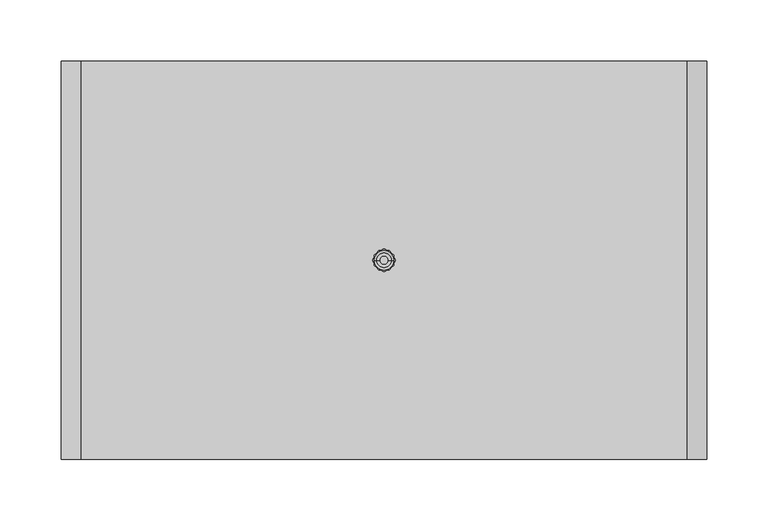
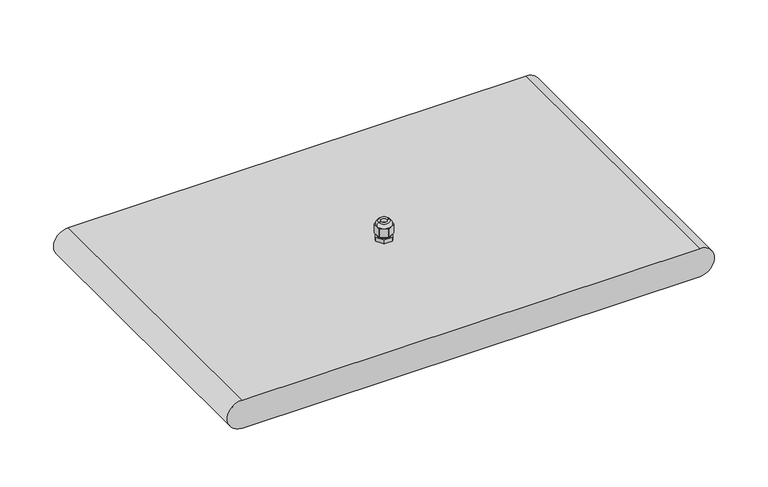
"""IFC4 building model written with IfcOpenShell, lengths in millimetres: light fixture geometry, GENILED_Светильник светодиодный_Element Низковольтный : Element 0,5x3 150Вт 12В Линза Ш2."""

from ifc_helpers import new_model, si_unit, point, frame, origin, origin_with_axes, place, context, project, spatial, polyline, circle_curve, ellipse_curve, trimmed, outline, extrude, source, transform, mapped, element, save
from ifc_brep_helpers import plane_surface, cylinder_surface, revolved_surface, advanced_brep


def light_fixture_b73f29e1(model_context):
    return source(origin(), model_context, "Body", "SolidModel", [
        advanced_brep(
        [(5.85, 0.0, 52.0120269), (-5.85, 0.0, 52.0120269), (-3.5, 0.0, 52.0120269), (3.5, 0.0, 52.0120269), (8.0, 0.0, 48.0120269), (4.0, 6.9282032, 48.0120269), (-4.0, 6.9282032, 48.0120269), (-8.0, 0.0, 48.0120269), (-4.0, -6.9282032, 48.0120269), (4.0, -6.9282032, 48.0120269), (-3.5, 0.0, 48.0120269), (3.5, 0.0, 48.0120269), (8.0, 4.1231056, 48.0120269), (7.5707142, 4.8666504, 48.0120269), (0.4292858, 8.989756, 48.0120269), (-0.4292858, 8.989756, 48.0120269), (-7.5707142, 4.8666504, 48.0120269), (-8.0, 4.1231056, 48.0120269), (-8.0, -4.1231056, 48.0120269), (-7.5707142, -4.8666504, 48.0120269), (-0.4292858, -8.989756, 48.0120269), (0.4292858, -8.989756, 48.0120269), (7.5707142, -4.8666504, 48.0120269), (8.0, -4.1231056, 48.0120269), (0.4292858, 8.989756, 38.6), (7.5707142, 4.8666504, 38.6), (8.0, 4.1231056, 38.6), (8.0, -4.1231056, 38.6), (7.5707142, -4.8666504, 38.6), (0.4292858, -8.989756, 38.6), (-0.4292858, -8.989756, 38.6), (-7.5707142, -4.8666504, 38.6), (-8.0, -4.1231056, 38.6), (-8.0, 4.1231056, 38.6), (-7.5707142, 4.8666504, 38.6), (-0.4292858, 8.989756, 38.6), (-7.25, 0.0, 38.6), (7.25, 0.0, 38.6), (-7.25, 0.0, 36.6), (7.25, 0.0, 36.6), (-8.989756, -0.4292858, 36.6), (-4.8666504, -7.5707142, 36.6), (-4.1231056, -8.0, 36.6), (4.1231056, -8.0, 36.6), (4.8666504, -7.5707142, 36.6), (8.989756, -0.4292858, 36.6), (9.0, 0.0, 36.6), (8.989756, 0.4292858, 36.6), (4.8666504, 7.5707142, 36.6), (4.1231056, 8.0, 36.6), (-4.1231056, 8.0, 36.6), (-4.8666504, 7.5707142, 36.6), (-8.989756, 0.4292858, 36.6), (-9.0, 0.0, 36.6), (-8.989756, 0.4292858, 32.0), (-4.8666504, 7.5707142, 32.0), (-4.1231056, 8.0, 32.0), (4.1231056, 8.0, 32.0), (4.8666504, 7.5707142, 32.0), (8.989756, 0.4292858, 32.0), (9.0, 0.0, 32.0), (8.989756, -0.4292858, 32.0), (4.8666504, -7.5707142, 32.0), (4.1231056, -8.0, 32.0), (-4.1231056, -8.0, 32.0), (-4.8666504, -7.5707142, 32.0), (-8.989756, -0.4292858, 32.0), (-9.0, 0.0, 32.0)],
        [
            (0, 1, circle_curve(frame((0.0, 0.0, 52.0120269), z_axis=(0.0, 0.0, 1.0), x_axis=(-1.0, 0.0, 0.0)), 5.85)),
            (1, 2),
            (2, 3, circle_curve(frame((0.0, 0.0, 52.0120269), z_axis=(0.0, 0.0, -1.0), x_axis=(-1.0, 0.0, 0.0)), 3.5)),
            (3, 0),
            (1, 0, circle_curve(frame((0.0, 0.0, 52.0120269), z_axis=(0.0, 0.0, 1.0), x_axis=(-1.0, 0.0, 0.0)), 5.85)),
            (3, 2, circle_curve(frame((0.0, 0.0, 52.0120269), z_axis=(0.0, 0.0, -1.0), x_axis=(-1.0, 0.0, 0.0)), 3.5)),
            (0, 4, circle_curve(frame((2.4876149, 0.0, 47.6269324), z_axis=(0.0, 1.0, 0.0), x_axis=(-1.0, 0.0, 0.0)), 5.5258201)),
            (4, 5, circle_curve(frame((0.0, 0.0, 48.0120269), z_axis=(0.0, 0.0, 1.0), x_axis=(-1.0, 0.0, 0.0)), 8.0)),
            (5, 6, circle_curve(frame((0.0, 0.0, 48.0120269), z_axis=(0.0, 0.0, 1.0), x_axis=(-1.0, 0.0, 0.0)), 8.0)),
            (6, 7, circle_curve(frame((0.0, 0.0, 48.0120269), z_axis=(0.0, 0.0, 1.0), x_axis=(-1.0, 0.0, 0.0)), 8.0)),
            (7, 1, circle_curve(frame((-2.4876149, 0.0, 47.6269324), z_axis=(0.0, 1.0, 0.0), x_axis=(1.0, 0.0, 0.0)), 5.5258201)),
            (7, 8, circle_curve(frame((0.0, 0.0, 48.0120269), z_axis=(0.0, 0.0, 1.0), x_axis=(-1.0, 0.0, 0.0)), 8.0)),
            (8, 9, circle_curve(frame((0.0, 0.0, 48.0120269), z_axis=(0.0, 0.0, 1.0), x_axis=(-1.0, 0.0, 0.0)), 8.0)),
            (9, 4, circle_curve(frame((0.0, 0.0, 48.0120269), z_axis=(0.0, 0.0, 1.0), x_axis=(-1.0, 0.0, 0.0)), 8.0)),
            (2, 10),
            (10, 11, circle_curve(frame((0.0, 0.0, 48.0120269), z_axis=(0.0, 0.0, -1.0), x_axis=(-1.0, 0.0, 0.0)), 3.5)),
            (11, 3),
            (11, 10, circle_curve(frame((0.0, 0.0, 48.0120269), z_axis=(0.0, 0.0, -1.0), x_axis=(-1.0, 0.0, 0.0)), 3.5)),
            (4, 12),
            (12, 13, circle_curve(frame((0.0, 0.0, 48.0120269), z_axis=(0.0, 0.0, 1.0), x_axis=(1.0, 0.0, 0.0)), 9.0)),
            (13, 5),
            (5, 14),
            (14, 15, circle_curve(frame((0.0, 0.0, 48.0120269), z_axis=(0.0, 0.0, 1.0), x_axis=(1.0, 0.0, 0.0)), 9.0)),
            (15, 6),
            (6, 16),
            (16, 17, circle_curve(frame((0.0, 0.0, 48.0120269), z_axis=(0.0, 0.0, 1.0), x_axis=(1.0, 0.0, 0.0)), 9.0)),
            (17, 7),
            (7, 18),
            (18, 19, circle_curve(frame((0.0, 0.0, 48.0120269), z_axis=(0.0, 0.0, 1.0), x_axis=(1.0, 0.0, 0.0)), 9.0)),
            (19, 8),
            (8, 20),
            (20, 21, circle_curve(frame((0.0, 0.0, 48.0120269), z_axis=(0.0, 0.0, 1.0), x_axis=(1.0, 0.0, 0.0)), 9.0)),
            (21, 9),
            (9, 22),
            (22, 23, circle_curve(frame((0.0, 0.0, 48.0120269), z_axis=(0.0, 0.0, 1.0), x_axis=(1.0, 0.0, 0.0)), 9.0)),
            (23, 4),
            (24, 25),
            (25, 26, circle_curve(frame((0.0, 0.0, 38.6), z_axis=(0.0, 0.0, -1.0), x_axis=(1.0, 0.0, 0.0)), 9.0)),
            (26, 27),
            (27, 28, circle_curve(frame((0.0, 0.0, 38.6), z_axis=(0.0, 0.0, -1.0), x_axis=(1.0, 0.0, 0.0)), 9.0)),
            (28, 29),
            (29, 30, circle_curve(frame((0.0, 0.0, 38.6), z_axis=(0.0, 0.0, -1.0), x_axis=(1.0, 0.0, 0.0)), 9.0)),
            (30, 31),
            (31, 32, circle_curve(frame((0.0, 0.0, 38.6), z_axis=(0.0, 0.0, -1.0), x_axis=(1.0, 0.0, 0.0)), 9.0)),
            (32, 33),
            (33, 34, circle_curve(frame((0.0, 0.0, 38.6), z_axis=(0.0, 0.0, -1.0), x_axis=(1.0, 0.0, 0.0)), 9.0)),
            (34, 35),
            (35, 24, circle_curve(frame((0.0, 0.0, 38.6), z_axis=(0.0, 0.0, -1.0), x_axis=(1.0, 0.0, 0.0)), 9.0)),
            (36, 37, circle_curve(frame((0.0, 0.0, 38.6), z_axis=(0.0, 0.0, 1.0), x_axis=(1.0, 0.0, 0.0)), 7.25)),
            (37, 36, circle_curve(frame((0.0, 0.0, 38.6), z_axis=(0.0, 0.0, 1.0), x_axis=(1.0, 0.0, 0.0)), 7.25)),
            (15, 35),
            (34, 16),
            (17, 33),
            (32, 18),
            (19, 31),
            (30, 20),
            (21, 29),
            (28, 22),
            (23, 27),
            (26, 12),
            (13, 25),
            (24, 14),
            (36, 38),
            (38, 39, circle_curve(frame((0.0, 0.0, 36.6), z_axis=(0.0, 0.0, 1.0), x_axis=(1.0, 0.0, 0.0)), 7.25)),
            (39, 37),
            (39, 38, circle_curve(frame((0.0, 0.0, 36.6), z_axis=(0.0, 0.0, 1.0), x_axis=(1.0, 0.0, 0.0)), 7.25)),
            (40, 41),
            (41, 42, circle_curve(frame((0.0, 0.0, 36.6), z_axis=(0.0, 0.0, 1.0), x_axis=(1.0, 0.0, 0.0)), 9.0)),
            (42, 43),
            (43, 44, circle_curve(frame((0.0, 0.0, 36.6), z_axis=(0.0, 0.0, 1.0), x_axis=(1.0, 0.0, 0.0)), 9.0)),
            (44, 45),
            (45, 46, circle_curve(frame((0.0, 0.0, 36.6), z_axis=(0.0, 0.0, 1.0), x_axis=(1.0, 0.0, 0.0)), 9.0)),
            (46, 47, circle_curve(frame((0.0, 0.0, 36.6), z_axis=(0.0, 0.0, 1.0), x_axis=(1.0, 0.0, 0.0)), 9.0)),
            (47, 48),
            (48, 49, circle_curve(frame((0.0, 0.0, 36.6), z_axis=(0.0, 0.0, 1.0), x_axis=(1.0, 0.0, 0.0)), 9.0)),
            (49, 50),
            (50, 51, circle_curve(frame((0.0, 0.0, 36.6), z_axis=(0.0, 0.0, 1.0), x_axis=(1.0, 0.0, 0.0)), 9.0)),
            (51, 52),
            (52, 53, circle_curve(frame((0.0, 0.0, 36.6), z_axis=(0.0, 0.0, 1.0), x_axis=(1.0, 0.0, 0.0)), 9.0)),
            (53, 40, circle_curve(frame((0.0, 0.0, 36.6), z_axis=(0.0, 0.0, 1.0), x_axis=(1.0, 0.0, 0.0)), 9.0)),
            (54, 55),
            (55, 56, circle_curve(frame((0.0, 0.0, 32.0), z_axis=(0.0, 0.0, -1.0), x_axis=(1.0, 0.0, 0.0)), 9.0)),
            (56, 57),
            (57, 58, circle_curve(frame((0.0, 0.0, 32.0), z_axis=(0.0, 0.0, -1.0), x_axis=(1.0, 0.0, 0.0)), 9.0)),
            (58, 59),
            (59, 60, circle_curve(frame((0.0, 0.0, 32.0), z_axis=(0.0, 0.0, -1.0), x_axis=(1.0, 0.0, 0.0)), 9.0)),
            (60, 61, circle_curve(frame((0.0, 0.0, 32.0), z_axis=(0.0, 0.0, -1.0), x_axis=(1.0, 0.0, 0.0)), 9.0)),
            (61, 62),
            (62, 63, circle_curve(frame((0.0, 0.0, 32.0), z_axis=(0.0, 0.0, -1.0), x_axis=(1.0, 0.0, 0.0)), 9.0)),
            (63, 64),
            (64, 65, circle_curve(frame((0.0, 0.0, 32.0), z_axis=(0.0, 0.0, -1.0), x_axis=(1.0, 0.0, 0.0)), 9.0)),
            (65, 66),
            (66, 67, circle_curve(frame((0.0, 0.0, 32.0), z_axis=(0.0, 0.0, -1.0), x_axis=(1.0, 0.0, 0.0)), 9.0)),
            (67, 54, circle_curve(frame((0.0, 0.0, 32.0), z_axis=(0.0, 0.0, -1.0), x_axis=(1.0, 0.0, 0.0)), 9.0)),
            (40, 66),
            (65, 41),
            (42, 64),
            (63, 43),
            (44, 62),
            (61, 45),
            (47, 59),
            (58, 48),
            (49, 57),
            (56, 50),
            (51, 55),
            (54, 52),
            (67, 53),
            (46, 60),
        ],
        [
            plane_surface(frame((0.0, 0.0, 52.0120269), z_axis=(0.0, 0.0, 1.0), x_axis=(-1.0, 0.0, 0.0))),
            revolved_surface(trimmed(ellipse_curve(frame((-2.4876149, 0.0, 47.6269324), z_axis=(0.0, -1.0, 0.0), x_axis=(1.0, 0.0, 0.0)), 5.5258201, 5.5258201), [point((-5.85, 0.0, 52.0120269))], [point((-8.0, 0.0, 48.0120269))], True, "CARTESIAN"), (0.0, 0.0, 48.0120269), (0.0, 0.0, -1.0)),
            revolved_surface(polyline([(-3.5, 0.0, 48.0120269), (-3.5, 0.0, 52.0120269)]), (0.0, 0.0, 48.0120269), (0.0, 0.0, -1.0)),
            plane_surface(frame((0.0, 9.2376043, 48.0120269), z_axis=(0.0, 0.0, 1.0000000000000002), x_axis=(-0.8660254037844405, -0.49999999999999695, 0.0))),
            plane_surface(frame((0.0, 9.2376043, 38.6), z_axis=(0.0, 0.0, -1.0000000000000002), x_axis=(0.8660254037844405, 0.49999999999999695, 0.0))),
            plane_surface(frame((0.0, 9.2376043, 48.0120269), z_axis=(-0.49999999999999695, 0.8660254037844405, 0.0), x_axis=(0.0, 0.0, -1.0))),
            plane_surface(frame((-8.0, 4.6188022, 48.0120269), z_axis=(-1.0, 0.0, 0.0), x_axis=(0.0, 0.0, -1.0))),
            plane_surface(frame((-8.0, -4.6188022, 48.0120269), z_axis=(-0.5000000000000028, -0.8660254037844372, 0.0), x_axis=(0.0, 0.0, -1.0))),
            plane_surface(frame((0.0, -9.2376043, 48.0120269), z_axis=(0.49999999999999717, -0.8660254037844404, 0.0), x_axis=(0.0, 0.0, -1.0))),
            plane_surface(frame((8.0, -4.6188022, 48.0120269), z_axis=(1.0, 0.0, 0.0), x_axis=(0.0, 0.0, -1.0))),
            plane_surface(frame((8.0, 4.6188022, 48.0120269), z_axis=(0.5000000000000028, 0.8660254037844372, 0.0), x_axis=(0.0, 0.0, -1.0))),
            cylinder_surface(frame((0.0, 0.0, 36.6), z_axis=(0.0, 0.0, 1.0), x_axis=(1.0, 0.0, 0.0)), 7.25),
            plane_surface(frame((-9.2376043, 0.0, 36.6), z_axis=(0.0, 0.0, 1.0), x_axis=(0.5000000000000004, -0.8660254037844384, 0.0))),
            plane_surface(frame((-9.2376043, 0.0, 32.0), z_axis=(0.0, 0.0, -1.0), x_axis=(-0.5000000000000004, 0.8660254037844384, 0.0))),
            plane_surface(frame((-9.2376043, 0.0, 36.6), z_axis=(-0.8660254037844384, -0.5000000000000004, 0.0), x_axis=(0.0, 0.0, -1.0))),
            plane_surface(frame((-4.6188022, -8.0, 36.6), z_axis=(0.0, -1.0, 0.0), x_axis=(0.0, 0.0, -1.0))),
            plane_surface(frame((4.6188022, -8.0, 36.6), z_axis=(0.866025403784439, -0.49999999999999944, 0.0), x_axis=(0.0, 0.0, -1.0))),
            plane_surface(frame((9.2376043, 0.0, 36.6), z_axis=(0.8660254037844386, 0.5000000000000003, 0.0), x_axis=(0.0, 0.0, -1.0))),
            plane_surface(frame((4.6188022, 8.0, 36.6), z_axis=(0.0, 1.0, 0.0), x_axis=(0.0, 0.0, -1.0))),
            plane_surface(frame((-4.6188022, 8.0, 36.6), z_axis=(-0.8660254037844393, 0.49999999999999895, 0.0), x_axis=(0.0, 0.0, -1.0))),
            cylinder_surface(frame((0.0, 0.0, 32.0), z_axis=(0.0, 0.0, -1.0), x_axis=(1.0, 0.0, 0.0)), 9.0),
        ],
        [
            (0, [[1, 2, 3, 4]]),
            (0, [[-2, 5, -4, 6]]),
            (1, [[-1, 7, 8, 9, 10, 11]]),
            (1, [[-5, -11, 12, 13, 14, -7]]),
            (2, [[-3, 15, 16, 17]]),
            (2, [[-6, -17, 18, -15]]),
            (3, [[-8, 19, 20, 21]]),
            (3, [[-9, 22, 23, 24]]),
            (3, [[-10, 25, 26, 27]]),
            (3, [[-12, 28, 29, 30]]),
            (3, [[-13, 31, 32, 33]]),
            (3, [[-14, 34, 35, 36]]),
            (3, [[-16, -18]]),
            (4, [[37, 38, 39, 40, 41, 42, 43, 44, 45, 46, 47, 48], [49, 50]]),
            (5, [[-25, -24, 51, -47, 52]]),
            (6, [[-27, 53, -45, 54, -28]]),
            (7, [[-30, 55, -43, 56, -31]]),
            (8, [[-34, -33, 57, -41, 58]]),
            (9, [[-36, 59, -39, 60, -19]]),
            (10, [[-21, 61, -37, 62, -22]]),
            (11, [[63, 64, 65, -49]]),
            (11, [[-63, -50, -65, 66]]),
            (12, [[67, 68, 69, 70, 71, 72, 73, 74, 75, 76, 77, 78, 79, 80], [-64, -66]]),
            (13, [[81, 82, 83, 84, 85, 86, 87, 88, 89, 90, 91, 92, 93, 94]]),
            (14, [[-67, 95, -92, 96]]),
            (15, [[-69, 97, -90, 98]]),
            (16, [[-71, 99, -88, 100]]),
            (17, [[-74, 101, -85, 102]]),
            (18, [[-76, 103, -83, 104]]),
            (19, [[-78, 105, -81, 106]]),
            (20, [[-20, -60, -38, -61]]),
            (20, [[-23, -62, -48, -51]]),
            (20, [[-26, -52, -46, -53]]),
            (20, [[-75, -102, -84, -103]]),
            (20, [[-77, -104, -82, -105]]),
            (20, [[107, -79, -106, -94]]),
            (20, [[108, -86, -101, -73]]),
            (20, [[-29, -54, -44, -55]]),
            (20, [[-32, -56, -42, -57]]),
            (20, [[-35, -58, -40, -59]]),
            (20, [[-68, -96, -91, -97]]),
            (20, [[-70, -98, -89, -99]]),
            (20, [[-107, -93, -95, -80]]),
            (20, [[-108, -72, -100, -87]]),
        ],
    ),
        advanced_brep(
        [(246.5, -162.0, 32.0), (-246.5, -162.0, 32.0), (-246.5, -162.0, 0.0), (246.5, -162.0, 0.0), (246.5, 162.0, 32.0), (246.5, 162.0, 0.0), (-246.5, 162.0, 0.0), (-246.5, 162.0, 32.0), (-246.5, 152.0, 0.0), (-246.5, -152.0, 0.0), (246.5, -152.0, 0.0), (246.5, 152.0, 0.0), (246.5, 152.0, 2.0), (246.5, -152.0, 2.0), (-246.5, -152.0, 2.0), (-246.5, 152.0, 2.0)],
        [
            (0, 1),
            (1, 2, circle_curve(frame((-246.5, -162.0, 16.0), z_axis=(0.0, -1.0, 0.0), x_axis=(1.0, 0.0, 0.0)), 16.0)),
            (2, 3),
            (3, 0, circle_curve(frame((246.5, -162.0, 16.0), z_axis=(0.0, -1.0, 0.0), x_axis=(1.0, 0.0, 0.0)), 16.0)),
            (4, 5, circle_curve(frame((246.5, 162.0, 16.0), z_axis=(0.0, 1.0, 0.0), x_axis=(1.0, 0.0, 0.0)), 16.0)),
            (5, 6),
            (6, 7, circle_curve(frame((-246.5, 162.0, 16.0), z_axis=(0.0, 1.0, 0.0), x_axis=(1.0, 0.0, 0.0)), 16.0)),
            (7, 4),
            (0, 4),
            (7, 1),
            (6, 8),
            (8, 9),
            (9, 2),
            (9, 10),
            (10, 3),
            (5, 11),
            (11, 8),
            (10, 11),
            (12, 13),
            (13, 14),
            (14, 15),
            (15, 12),
            (15, 8),
            (11, 12),
            (14, 9),
            (13, 10),
        ],
        [
            plane_surface(frame((-246.5, -162.0, 32.0), z_axis=(0.0, -1.0, 0.0), x_axis=(-1.0, 0.0, 0.0))),
            plane_surface(frame((-246.5, 162.0, 32.0), z_axis=(0.0, 1.0, 0.0), x_axis=(1.0, 0.0, 0.0))),
            plane_surface(frame((246.5, -162.0, 32.0), z_axis=(0.0, 0.0, 1.0), x_axis=(0.0, 1.0, 0.0))),
            cylinder_surface(frame((-246.5, 162.0, 16.0), z_axis=(0.0, -1.0, 0.0), x_axis=(1.0, 0.0, 0.0)), 16.0),
            plane_surface(frame((-246.5, -162.0, 0.0), z_axis=(0.0, 0.0, -1.0), x_axis=(0.0, 1.0, 0.0))),
            cylinder_surface(frame((246.5, 162.0, 16.0), z_axis=(0.0, -1.0, 0.0), x_axis=(1.0, 0.0, 0.0)), 16.0),
            plane_surface(frame((-246.5, 152.0, 2.0), z_axis=(0.0, 0.0, -1.0), x_axis=(-1.0, 0.0, 0.0))),
            plane_surface(frame((246.5, 152.0, 2.0), z_axis=(0.0, -1.0, 0.0), x_axis=(0.0, 0.0, -1.0))),
            plane_surface(frame((-246.5, 152.0, 2.0), z_axis=(1.0, 0.0, 0.0), x_axis=(0.0, 0.0, -1.0))),
            plane_surface(frame((-246.5, -152.0, 2.0), z_axis=(0.0, 1.0, 0.0), x_axis=(0.0, 0.0, -1.0))),
            plane_surface(frame((246.5, -152.0, 2.0), z_axis=(-1.0, 0.0, 0.0), x_axis=(0.0, 0.0, -1.0))),
        ],
        [
            (0, [[1, 2, 3, 4]]),
            (1, [[5, 6, 7, 8]]),
            (2, [[-1, 9, -8, 10]]),
            (3, [[-2, -10, -7, 11, 12, 13]]),
            (4, [[-3, -13, 14, 15]]),
            (4, [[-6, 16, 17, -11]]),
            (5, [[-4, -15, 18, -16, -5, -9]]),
            (6, [[19, 20, 21, 22]]),
            (7, [[-22, 23, -17, 24]]),
            (8, [[-21, 25, -12, -23]]),
            (9, [[-20, 26, -14, -25]]),
            (10, [[-19, -24, -18, -26]]),
        ],
    ),
        extrude(outline(polyline([(246.5, 152.0), (246.5, -152.0), (-246.5, -152.0), (-246.5, 152.0), (246.5, 152.0)])), origin_with_axes(), (0.0, 0.0, 1.0), 2.0),
    ])


if __name__ == "__main__":
    model = new_model("IFC4")
    model_context = context("Model", 3, world=origin())
    ifc_project = project(units=[si_unit("LENGTHUNIT", "METRE", prefix="MILLI")], contexts=[model_context])
    site = spatial("IfcSite", under=ifc_project)
    building = spatial("IfcBuilding", under=site)
    placement = place(None, origin())
    light_fixture_shape = light_fixture_b73f29e1(model_context)
    element("IfcLightFixture", 1, ObjectType="GENILED_Светильник светодиодный_Element Низковольтный : Element 0,5x3 150Вт 12В Линза Ш2", at=placement, inside=building, context=model_context, shape_type="MappedRepresentation", body=[
        mapped(light_fixture_shape, transform((0.0, 0.0, 0.0), x_axis=(1.0, 0.0, 0.0), y_axis=(0.0, 1.0, 0.0), z_axis=(0.0, 0.0, 1.0))),
    ])
    save(model, "model.ifc")
